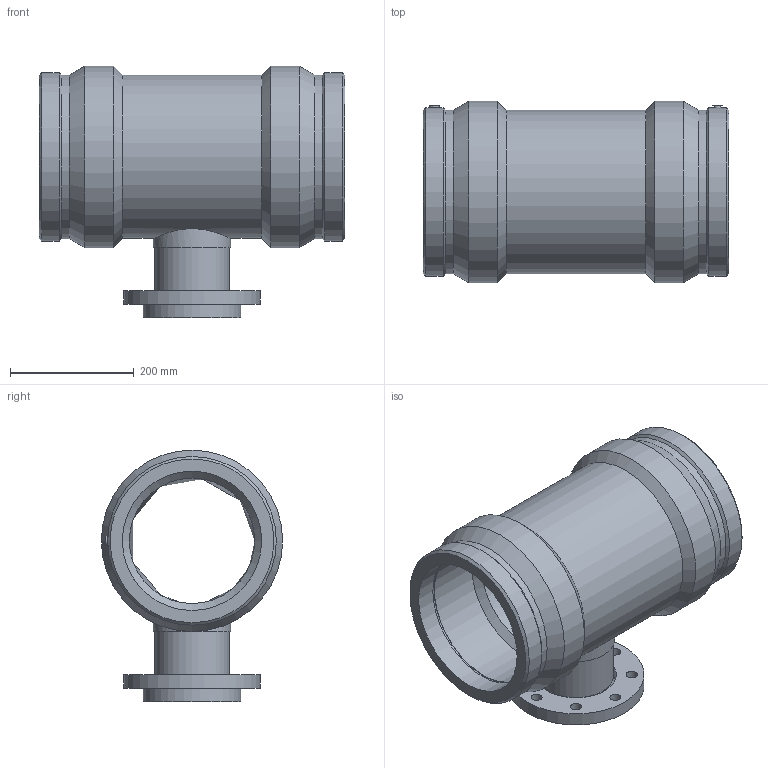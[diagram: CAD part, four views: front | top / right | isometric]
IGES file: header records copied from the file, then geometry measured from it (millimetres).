
Global section: file name: 499404225100.ipt; native system: Autodesk Inventor 2015; preprocessor: unknown; author: KIM; date: 20171106.094459; units: millimetre
Bounding box: 494 x 293 x 406.5 mm (x, y, z)
Volume: 11975701.2 mm3; surface area: 991645.6 mm2
Topology: 1 solids, 2 shells, 60 faces, 136 edges, 90 vertices
Faces by surface type: revolution 21, plane 14, cylinder 13, cone 11, bspline 1
Full cylindrical faces by diameter (mm): 4 x2, 120 x1, 125 x1, 158 x1, 220 x1, 263.7 x1, 264.315 x2, 272.49 x2, 293 x2
